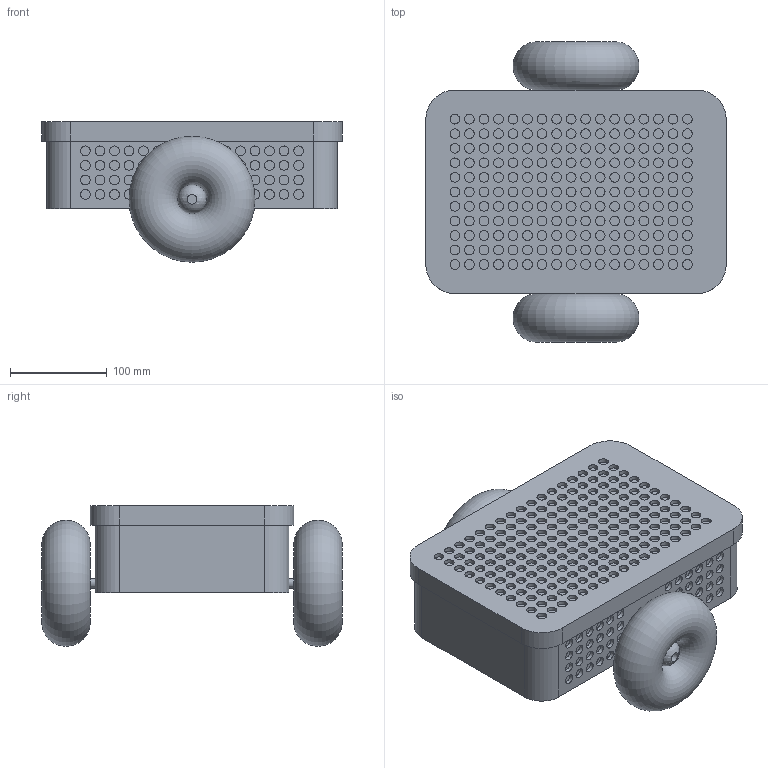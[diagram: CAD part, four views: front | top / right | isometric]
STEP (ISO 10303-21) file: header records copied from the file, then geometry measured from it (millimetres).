
FILE_DESCRIPTION(/* description */ (''),/* implementation_level */ '2;1');
FILE_NAME(/* name */ 'test_finalproject.step',/* time_stamp */ '2024-02-06T19:56:25-03:00',/* author */ (''),/* organization */ (''),/* preprocessor_version */ 'ST-DEVELOPER v20',/* originating_system */ 'Autodesk Translation Framework v12.20.1.177',/* authorisation */ '');
FILE_SCHEMA (('AUTOMOTIVE_DESIGN { 1 0 10303 214 3 1 1 }'));
Length unit declared in the file: millimetre
Products named in the file (1): test2
Bounding box: 310 x 310 x 145 mm (x, y, z)
Volume: 1925891.4 mm3; surface area: 531550.2 mm2
Topology: 6 solids, 6 shells, 618 faces, 975 edges, 648 vertices
Faces by surface type: plane 309, cylinder 303, sphere 4, torus 2
Full cylindrical faces by diameter (mm): 10 x287
Entity records: 14287 total; most frequent: DIRECTION 2829, CARTESIAN_POINT 2238, ORIENTED_EDGE 1942, AXIS2_PLACEMENT_3D 1239, EDGE_CURVE 971, EDGE_LOOP 905, VERTEX_POINT 648, CIRCLE 620
